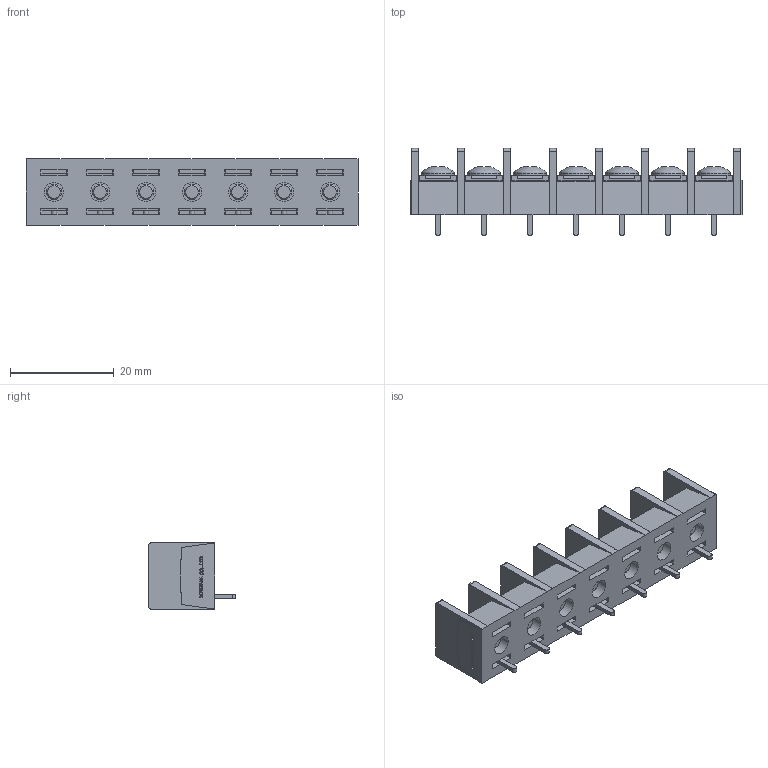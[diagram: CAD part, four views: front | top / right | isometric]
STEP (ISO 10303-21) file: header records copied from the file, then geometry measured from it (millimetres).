
FILE_DESCRIPTION(/* description */ ('Alibre Inc.'),/* implementation_level */ '2;1');
FILE_NAME(/* name */ 'export0',/* time_stamp */ '2015-10-20T08:14:14+09:00',/* author */ (''),/* organization */ (''),/* preprocessor_version */ 'ST-DEVELOPER v14',/* originating_system */ 'Alibre',/* authorisation */ '');
FILE_SCHEMA (('CONFIG_CONTROL_DESIGN'));
Length unit declared in the file: centimetre
Products named in the file (1): ID_1
Bounding box: 64.14 x 16.8 x 12.8 mm (x, y, z)
Volume: 5978.7 mm3; surface area: 7465.3 mm2
Topology: 1 solids, 120 shells, 2357 faces, 6059 edges, 4010 vertices
Faces by surface type: plane 1761, bspline 468, cylinder 72, cone 35, torus 14, sphere 7
Full cylindrical faces by diameter (mm): 3 x14, 3.7 x7, 4.6 x7, 6.3 x7
Entity records: 68134 total; most frequent: CARTESIAN_POINT 16534, ORIENTED_EDGE 11964, DIRECTION 7090, EDGE_CURVE 5982, VECTOR 4613, LINE 4613, VERTEX_POINT 3989, EDGE_LOOP 2579
